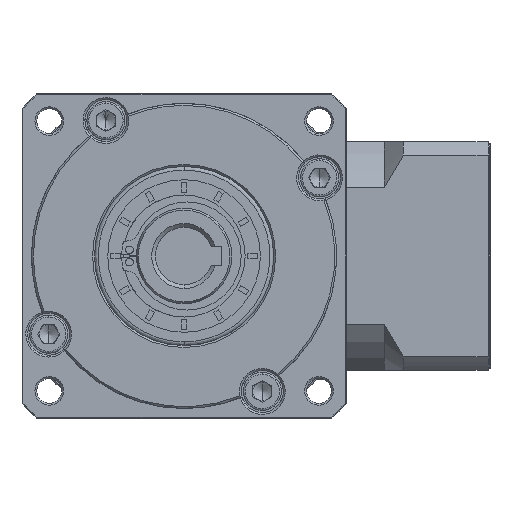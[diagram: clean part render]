
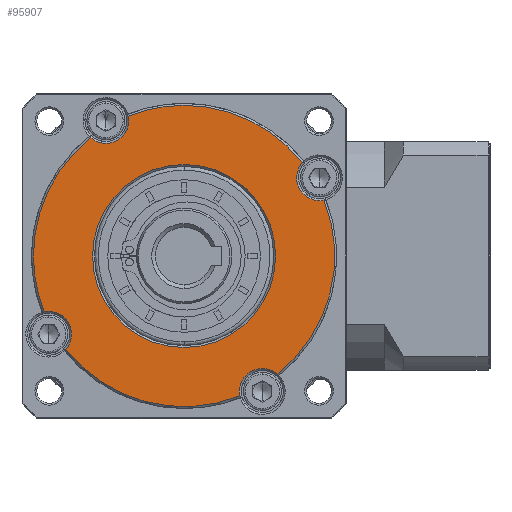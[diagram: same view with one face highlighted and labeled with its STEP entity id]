
A CAD part, left-side view. The second image highlights one B-rep face of the part: STEP entity #95907.
In plain terms, the highlighted planar face has unit normal (-1, 0, 0).
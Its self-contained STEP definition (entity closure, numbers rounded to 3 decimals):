
#2233 = DIRECTION ( 'NONE',  ( -1., 0., 0. ) ) ;
#2315 = EDGE_CURVE ( 'NONE', #49221, #47285, #129962, .T. ) ;
#2846 = DIRECTION ( 'NONE',  ( 1., 0., 0. ) ) ;
#3703 = ORIENTED_EDGE ( 'NONE', *, *, #2315, .T. ) ;
#7666 = AXIS2_PLACEMENT_3D ( 'NONE', #43079, #134371, #56255 ) ;
#8008 = DIRECTION ( 'NONE',  ( 1., 0., 0. ) ) ;
#10195 = VERTEX_POINT ( 'NONE', #109652 ) ;
#16599 = VERTEX_POINT ( 'NONE', #36853 ) ;
#16918 = ORIENTED_EDGE ( 'NONE', *, *, #20316, .F. ) ;
#17443 = CARTESIAN_POINT ( 'NONE',  ( -126.92, -17.972, -115.877 ) ) ;
#20316 = EDGE_CURVE ( 'NONE', #107878, #22485, #52509, .T. ) ;
#21103 = FACE_BOUND ( 'NONE', #128409, .T. ) ;
#22485 = VERTEX_POINT ( 'NONE', #92044 ) ;
#22944 = DIRECTION ( 'NONE',  ( 1., 0., 0. ) ) ;
#24998 = CIRCLE ( 'NONE', #40279, 24. ) ;
#26295 = CARTESIAN_POINT ( 'NONE',  ( -126.92, 30.028, -115.877 ) ) ;
#27843 = AXIS2_PLACEMENT_3D ( 'NONE', #141152, #62948, #154330 ) ;
#27993 = DIRECTION ( 'NONE',  ( 1., 0., 0. ) ) ;
#28010 = PLANE ( 'NONE',  #48503 ) ;
#29930 = ORIENTED_EDGE ( 'NONE', *, *, #126644, .F. ) ;
#31276 = CARTESIAN_POINT ( 'NONE',  ( -126.92, 42.723, -130.496 ) ) ;
#33814 = ORIENTED_EDGE ( 'NONE', *, *, #117619, .T. ) ;
#33948 = AXIS2_PLACEMENT_3D ( 'NONE', #117508, #39343, #130660 ) ;
#34900 = ORIENTED_EDGE ( 'NONE', *, *, #84270, .T. ) ;
#35998 = CARTESIAN_POINT ( 'NONE',  ( -126.92, 30.497, -84.869 ) ) ;
#36853 = CARTESIAN_POINT ( 'NONE',  ( -126.92, 20.647, -79.181 ) ) ;
#37311 = CARTESIAN_POINT ( 'NONE',  ( -126.92, 6.028, -115.877 ) ) ;
#37918 = CIRCLE ( 'NONE', #95926, 39.5 ) ;
#37956 = CARTESIAN_POINT ( 'NONE',  ( -126.92, 6.028, -115.877 ) ) ;
#38145 = DIRECTION ( 'NONE',  ( 1., 0., 0. ) ) ;
#38368 = ORIENTED_EDGE ( 'NONE', *, *, #151469, .F. ) ;
#39343 = DIRECTION ( 'NONE',  ( 1., 0., 0. ) ) ;
#39419 = AXIS2_PLACEMENT_3D ( 'NONE', #101309, #22944, #114417 ) ;
#40279 = AXIS2_PLACEMENT_3D ( 'NONE', #116347, #38145, #129476 ) ;
#41692 = EDGE_CURVE ( 'NONE', #16599, #49221, #65146, .T. ) ;
#41832 = AXIS2_PLACEMENT_3D ( 'NONE', #70497, #161883, #83623 ) ;
#42002 = CARTESIAN_POINT ( 'NONE',  ( -126.92, -30.667, -101.258 ) ) ;
#43079 = CARTESIAN_POINT ( 'NONE',  ( -126.92, -14.472, -151.384 ) ) ;
#43938 = CARTESIAN_POINT ( 'NONE',  ( -126.92, -8.591, -152.572 ) ) ;
#46815 = CIRCLE ( 'NONE', #7666, 6. ) ;
#46922 = VERTEX_POINT ( 'NONE', #26295 ) ;
#47285 = VERTEX_POINT ( 'NONE', #35998 ) ;
#48503 = AXIS2_PLACEMENT_3D ( 'NONE', #80650, #2233, #93794 ) ;
#49221 = VERTEX_POINT ( 'NONE', #158262 ) ;
#49734 = CIRCLE ( 'NONE', #33948, 24. ) ;
#50552 = DIRECTION ( 'NONE',  ( 0., 0., 1. ) ) ;
#51192 = DIRECTION ( 'NONE',  ( 0., 1., 0. ) ) ;
#52509 = CIRCLE ( 'NONE', #116536, 39.5 ) ;
#52717 = CARTESIAN_POINT ( 'NONE',  ( -126.92, 6.028, -115.877 ) ) ;
#53779 = CIRCLE ( 'NONE', #27843, 6. ) ;
#53929 = DIRECTION ( 'NONE',  ( 1., 0., 0. ) ) ;
#56255 = DIRECTION ( 'NONE',  ( 0., 0., -1. ) ) ;
#56793 = CIRCLE ( 'NONE', #117191, 39.5 ) ;
#60162 = CIRCLE ( 'NONE', #103763, 39.5 ) ;
#62948 = DIRECTION ( 'NONE',  ( 1., 0., 0. ) ) ;
#65146 = CIRCLE ( 'NONE', #159867, 6. ) ;
#65376 = EDGE_CURVE ( 'NONE', #107878, #130966, #53779, .T. ) ;
#65741 = VERTEX_POINT ( 'NONE', #164462 ) ;
#65783 = DIRECTION ( 'NONE',  ( 0., 0., 1. ) ) ;
#70497 = CARTESIAN_POINT ( 'NONE',  ( -126.92, 41.535, -136.377 ) ) ;
#73188 = DIRECTION ( 'NONE',  ( 1., 0., 0. ) ) ;
#73927 = VERTEX_POINT ( 'NONE', #17443 ) ;
#74910 = AXIS2_PLACEMENT_3D ( 'NONE', #81262, #2846, #94410 ) ;
#80650 = CARTESIAN_POINT ( 'NONE',  ( -126.92, 6.028, -115.877 ) ) ;
#81262 = CARTESIAN_POINT ( 'NONE',  ( -126.92, 6.028, -115.877 ) ) ;
#81304 = VERTEX_POINT ( 'NONE', #43938 ) ;
#81630 = ORIENTED_EDGE ( 'NONE', *, *, #160714, .T. ) ;
#83623 = DIRECTION ( 'NONE',  ( 0., 0., -1. ) ) ;
#84270 = EDGE_CURVE ( 'NONE', #89916, #90036, #84988, .T. ) ;
#84988 = CIRCLE ( 'NONE', #41832, 6. ) ;
#86470 = CARTESIAN_POINT ( 'NONE',  ( -126.92, 6.028, -115.877 ) ) ;
#89916 = VERTEX_POINT ( 'NONE', #31276 ) ;
#90036 = VERTEX_POINT ( 'NONE', #141969 ) ;
#90690 = FACE_OUTER_BOUND ( 'NONE', #140730, .T. ) ;
#92044 = CARTESIAN_POINT ( 'NONE',  ( -126.92, -18.442, -146.885 ) ) ;
#92572 = CIRCLE ( 'NONE', #154638, 39.5 ) ;
#93008 = EDGE_CURVE ( 'NONE', #16599, #114119, #60162, .T. ) ;
#93794 = DIRECTION ( 'NONE',  ( 0., 0., -1. ) ) ;
#94410 = DIRECTION ( 'NONE',  ( 0., 0., 1. ) ) ;
#95186 = EDGE_CURVE ( 'NONE', #81304, #90036, #56793, .T. ) ;
#95907 = ADVANCED_FACE ( 'NONE', ( #90690, #21103 ), #28010, .T. ) ;
#95926 = AXIS2_PLACEMENT_3D ( 'NONE', #132057, #53929, #145224 ) ;
#97369 = ORIENTED_EDGE ( 'NONE', *, *, #93008, .F. ) ;
#97834 = ORIENTED_EDGE ( 'NONE', *, *, #41692, .T. ) ;
#99558 = DIRECTION ( 'NONE',  ( 0., 0., 1. ) ) ;
#101309 = CARTESIAN_POINT ( 'NONE',  ( -126.92, 26.528, -80.37 ) ) ;
#103763 = AXIS2_PLACEMENT_3D ( 'NONE', #52717, #143990, #65783 ) ;
#106303 = CARTESIAN_POINT ( 'NONE',  ( -126.92, -29.479, -95.377 ) ) ;
#106438 = EDGE_CURVE ( 'NONE', #46922, #73927, #49734, .T. ) ;
#107878 = VERTEX_POINT ( 'NONE', #42002 ) ;
#109652 = CARTESIAN_POINT ( 'NONE',  ( -126.92, 45.528, -115.877 ) ) ;
#110525 = CIRCLE ( 'NONE', #74910, 39.5 ) ;
#114119 = VERTEX_POINT ( 'NONE', #165737 ) ;
#114417 = DIRECTION ( 'NONE',  ( 0., 0., -1. ) ) ;
#116347 = CARTESIAN_POINT ( 'NONE',  ( -126.92, 6.028, -115.877 ) ) ;
#116536 = AXIS2_PLACEMENT_3D ( 'NONE', #37311, #128645, #50552 ) ;
#117191 = AXIS2_PLACEMENT_3D ( 'NONE', #86470, #8008, #99558 ) ;
#117508 = CARTESIAN_POINT ( 'NONE',  ( -126.92, 6.028, -115.877 ) ) ;
#117619 = EDGE_CURVE ( 'NONE', #73927, #46922, #24998, .T. ) ;
#118605 = ORIENTED_EDGE ( 'NONE', *, *, #65376, .T. ) ;
#119381 = DIRECTION ( 'NONE',  ( 0., 0., -1. ) ) ;
#120574 = CIRCLE ( 'NONE', #127542, 6. ) ;
#126644 = EDGE_CURVE ( 'NONE', #89916, #10195, #92572, .T. ) ;
#127542 = AXIS2_PLACEMENT_3D ( 'NONE', #106303, #27993, #119381 ) ;
#128409 = EDGE_LOOP ( 'NONE', ( #33814, #136203 ) ) ;
#128645 = DIRECTION ( 'NONE',  ( 1., 0., 0. ) ) ;
#129298 = DIRECTION ( 'NONE',  ( 1., 0., 0. ) ) ;
#129476 = DIRECTION ( 'NONE',  ( 0., -1., 0. ) ) ;
#129962 = CIRCLE ( 'NONE', #39419, 6. ) ;
#130660 = DIRECTION ( 'NONE',  ( 0., -1., 0. ) ) ;
#130966 = VERTEX_POINT ( 'NONE', #168932 ) ;
#132057 = CARTESIAN_POINT ( 'NONE',  ( -126.92, 6.028, -115.877 ) ) ;
#134371 = DIRECTION ( 'NONE',  ( 1., 0., 0. ) ) ;
#136203 = ORIENTED_EDGE ( 'NONE', *, *, #106438, .T. ) ;
#136800 = ORIENTED_EDGE ( 'NONE', *, *, #144016, .T. ) ;
#140730 = EDGE_LOOP ( 'NONE', ( #97369, #97834, #3703, #38368, #29930, #34900, #164950, #81630, #16918, #118605, #136800, #144556 ) ) ;
#141152 = CARTESIAN_POINT ( 'NONE',  ( -126.92, -29.479, -95.377 ) ) ;
#141969 = CARTESIAN_POINT ( 'NONE',  ( -126.92, 37.036, -140.346 ) ) ;
#143990 = DIRECTION ( 'NONE',  ( 1., 0., 0. ) ) ;
#144016 = EDGE_CURVE ( 'NONE', #130966, #65741, #120574, .T. ) ;
#144556 = ORIENTED_EDGE ( 'NONE', *, *, #149990, .F. ) ;
#145224 = DIRECTION ( 'NONE',  ( 0., 1., 0. ) ) ;
#149990 = EDGE_CURVE ( 'NONE', #114119, #65741, #110525, .T. ) ;
#151381 = CARTESIAN_POINT ( 'NONE',  ( -126.92, 26.528, -80.37 ) ) ;
#151469 = EDGE_CURVE ( 'NONE', #10195, #47285, #37918, .T. ) ;
#154330 = DIRECTION ( 'NONE',  ( 0., 0., -1. ) ) ;
#154638 = AXIS2_PLACEMENT_3D ( 'NONE', #37956, #129298, #51192 ) ;
#158262 = CARTESIAN_POINT ( 'NONE',  ( -126.92, 26.528, -86.37 ) ) ;
#159867 = AXIS2_PLACEMENT_3D ( 'NONE', #151381, #73188, #164532 ) ;
#160714 = EDGE_CURVE ( 'NONE', #81304, #22485, #46815, .T. ) ;
#161883 = DIRECTION ( 'NONE',  ( 1., 0., 0. ) ) ;
#164462 = CARTESIAN_POINT ( 'NONE',  ( -126.92, -24.98, -91.407 ) ) ;
#164532 = DIRECTION ( 'NONE',  ( 0., 0., -1. ) ) ;
#164950 = ORIENTED_EDGE ( 'NONE', *, *, #95186, .F. ) ;
#165737 = CARTESIAN_POINT ( 'NONE',  ( -126.92, 6.028, -76.377 ) ) ;
#168932 = CARTESIAN_POINT ( 'NONE',  ( -126.92, -29.479, -101.377 ) ) ;
